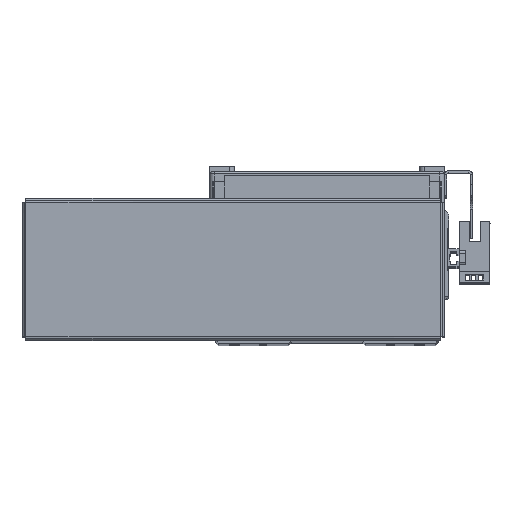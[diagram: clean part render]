
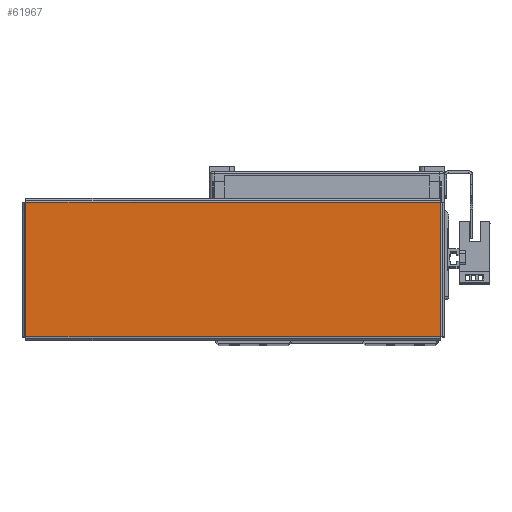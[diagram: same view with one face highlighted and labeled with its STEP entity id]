
A CAD part, top view. The second image highlights one B-rep face of the part: STEP entity #61967.
In plain terms, the highlighted planar face has unit normal (0, 0, 1) as drawn and (0, -1, 0) by its records, which use the part's own axes.
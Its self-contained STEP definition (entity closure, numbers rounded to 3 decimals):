
#3069 = VECTOR ( 'NONE', #20991, 1000. ) ;
#3077 = LINE ( 'NONE', #21017, #3069 ) ;
#4903 = EDGE_CURVE ( 'NONE', #42628, #42630, #3077, .T. ) ;
#6198 = AXIS2_PLACEMENT_3D ( 'NONE', #14826, #14842, #14828 ) ;
#8659 = ORIENTED_EDGE ( 'NONE', *, *, #4903, .T. ) ;
#8685 = ORIENTED_EDGE ( 'NONE', *, *, #36131, .T. ) ;
#8695 = ORIENTED_EDGE ( 'NONE', *, *, #36105, .T. ) ;
#8774 = ORIENTED_EDGE ( 'NONE', *, *, #36146, .T. ) ;
#12491 = FACE_OUTER_BOUND ( 'NONE', #22975, .T. ) ;
#14826 = CARTESIAN_POINT ( 'NONE',  ( 0., -1., 0. ) ) ;
#14828 = DIRECTION ( 'NONE',  ( 0., 0., 1. ) ) ;
#14842 = DIRECTION ( 'NONE',  ( 0., 1., 0. ) ) ;
#14852 = PLANE ( 'NONE',  #6198 ) ;
#20991 = DIRECTION ( 'NONE',  ( 0., 0., -1. ) ) ;
#21017 = CARTESIAN_POINT ( 'NONE',  ( -91.863, -1., 29.793 ) ) ;
#22975 = EDGE_LOOP ( 'NONE', ( #8774, #8695, #8685, #8659 ) ) ;
#36105 = EDGE_CURVE ( 'NONE', #42610, #42624, #44640, .T. ) ;
#36131 = EDGE_CURVE ( 'NONE', #42624, #42628, #44665, .T. ) ;
#36146 = EDGE_CURVE ( 'NONE', #42630, #42610, #44682, .T. ) ;
#42610 = VERTEX_POINT ( 'NONE', #61239 ) ;
#42624 = VERTEX_POINT ( 'NONE', #61230 ) ;
#42628 = VERTEX_POINT ( 'NONE', #61209 ) ;
#42630 = VERTEX_POINT ( 'NONE', #61258 ) ;
#44620 = VECTOR ( 'NONE', #59651, 1000. ) ;
#44640 = LINE ( 'NONE', #59618, #44620 ) ;
#44650 = VECTOR ( 'NONE', #59685, 1000. ) ;
#44653 = VECTOR ( 'NONE', #59674, 1000. ) ;
#44665 = LINE ( 'NONE', #59692, #44653 ) ;
#44682 = LINE ( 'NONE', #59665, #44650 ) ;
#59618 = CARTESIAN_POINT ( 'NONE',  ( 91.863, -1., -29.793 ) ) ;
#59651 = DIRECTION ( 'NONE',  ( 0., 0., 1. ) ) ;
#59665 = CARTESIAN_POINT ( 'NONE',  ( -91.893, -1., -29.763 ) ) ;
#59674 = DIRECTION ( 'NONE',  ( -1., 0., 0. ) ) ;
#59685 = DIRECTION ( 'NONE',  ( 1., 0., 0. ) ) ;
#59692 = CARTESIAN_POINT ( 'NONE',  ( 91.893, -1., 29.763 ) ) ;
#61209 = CARTESIAN_POINT ( 'NONE',  ( -91.863, -1., 29.763 ) ) ;
#61230 = CARTESIAN_POINT ( 'NONE',  ( 91.863, -1., 29.763 ) ) ;
#61239 = CARTESIAN_POINT ( 'NONE',  ( 91.863, -1., -29.763 ) ) ;
#61258 = CARTESIAN_POINT ( 'NONE',  ( -91.863, -1., -29.763 ) ) ;
#61967 = ADVANCED_FACE ( 'NONE', ( #12491 ), #14852, .F. ) ;
